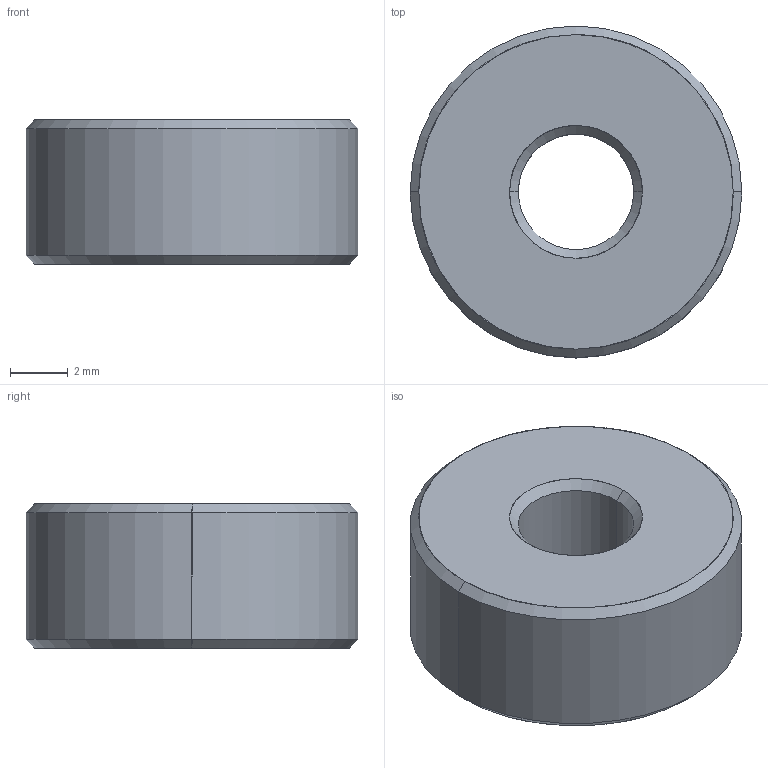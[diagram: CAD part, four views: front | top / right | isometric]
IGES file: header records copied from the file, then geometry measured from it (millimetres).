
Global section: file name: E:\UnigraphicsGraphicData\MISUMI_PRESS-PARTS\IGES\3d_t6.5_00122_r00.igs; native system: NX V5.0; preprocessor: UGS NX IGES V5.0; author: MISUMI; date: 20110105.163347; units: millimetre
Bounding box: 11.5 x 11.5 x 5 mm (x, y, z)
Surface area: 405.5 mm2 (no closed solid volume)
Topology: 0 solids, 0 shells, 14 faces, 80 edges, 80 vertices
Faces by surface type: bspline 14
